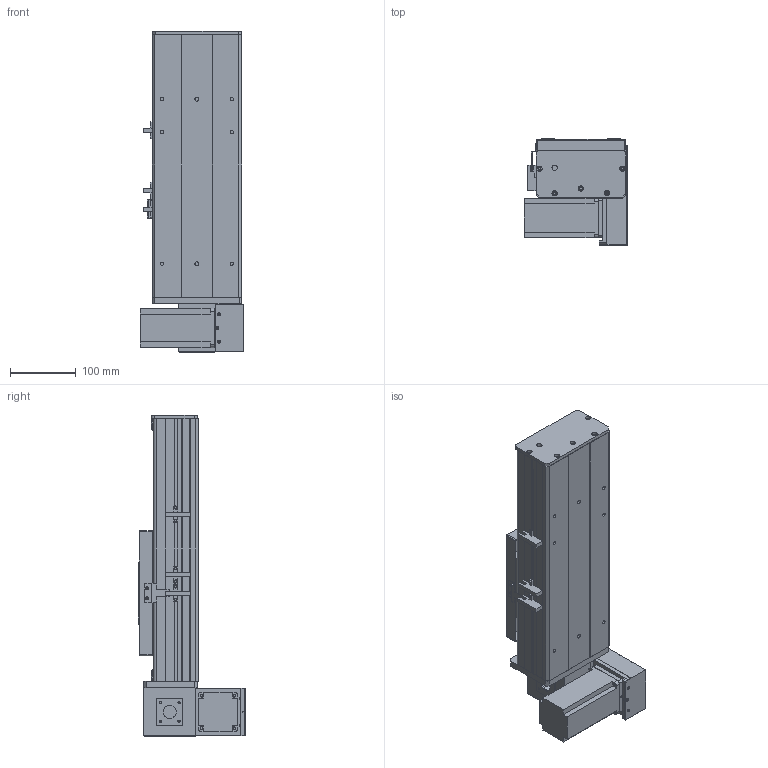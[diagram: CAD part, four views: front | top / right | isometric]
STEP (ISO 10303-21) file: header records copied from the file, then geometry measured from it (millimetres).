
FILE_DESCRIPTION (( 'STEP AP203' ), '1' );
FILE_NAME ('Y135CB-D90-S100-BM-P400W.STEP', '2020-02-18T09:04:38', ( '微软用户' ), ( '微软中国' ), 'SwSTEP 2.0', 'SolidWorks 2017', '' );
FILE_SCHEMA (( 'CONFIG_CONTROL_DESIGN' ));
Length unit declared in the file: millimetre
Products named in the file (18): Y10B-耜蚾蟀諉啣----; C-詩湍揤踡え-陔; Y135CB-耜裔; Y135CB-D90-S100-BM-P400W; 135CB--詩湍-CE; 135CB---遴掛极.-; Y100-135俋离換覜ん--; 35CB---喘謫眊楊擘啣; Y135C-陔俋离換覜結え-; 0B-埴倛裔啣; 5C--俋欶; 0B-源倛裔啣; C-雄赽釱--; 0B-萇儂楊擘啣; Y10B--々湍喘謫眊--666; san松下电机400不带刹车----; 00B-俋欶BM--; 5CB --掛极耜裔啣-
Assembly tree (21 placements, depth 2):
  Y135CB-D90-S100-BM-P400W
    Y135CB-耜裔
    135CB---遴掛极.-
    35CB---喘謫眊楊擘啣
    0B-埴倛裔啣
    0B-源倛裔啣
    0B-萇儂楊擘啣
    san松下电机400不带刹车----
    5CB --掛极耜裔啣-  x2
    C-詩湍揤踡え-陔  x2
    135CB--詩湍-CE
    Y100-135俋离換覜ん--  x3
    Y135C-陔俋离換覜結え-
    5C--俋欶
    C-雄赽釱--
    Y10B--々湍喘謫眊--666
    00B-俋欶BM--
    Y10B-耜蚾蟀諉啣----
Bounding box: 157 x 163.3 x 488 mm (x, y, z)
Volume: 2049118.7 mm3; surface area: 778001.8 mm2
Topology: 21 solids, 21 shells, 929 faces, 2455 edges, 1626 vertices
Faces by surface type: cylinder 457, plane 456, cone 16
Entity records: 28541 total; most frequent: DIRECTION 4739, CARTESIAN_POINT 4636, ORIENTED_EDGE 4386, EDGE_CURVE 2193, AXIS2_PLACEMENT_3D 1721, VERTEX_POINT 1454, VECTOR 1297, LINE 1297
